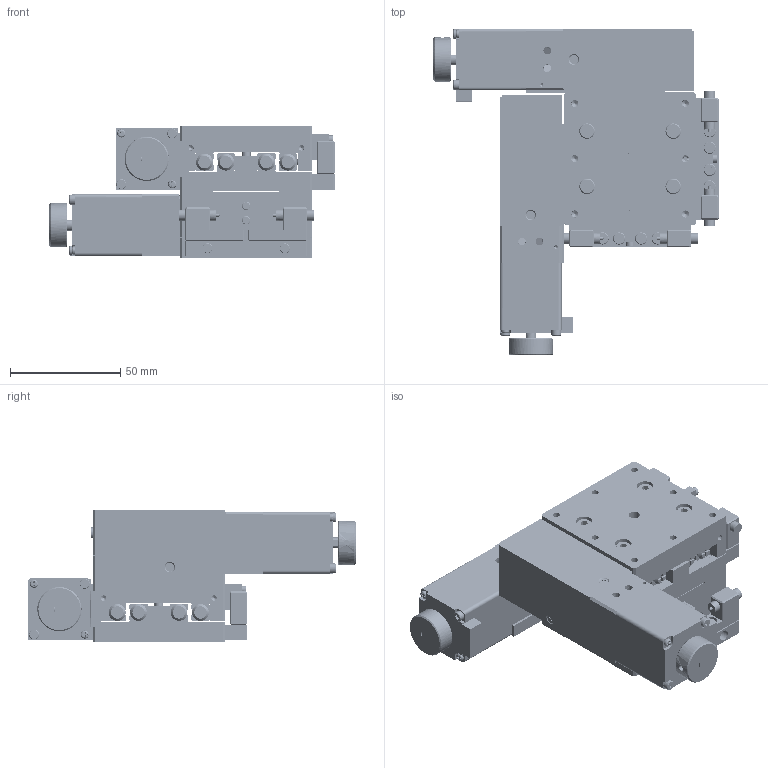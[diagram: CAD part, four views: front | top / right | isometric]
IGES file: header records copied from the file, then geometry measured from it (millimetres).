
Global section: file name: VTAMM60S-20XY_IGS; native system: Autodesk Inventor 2016; preprocessor: unknown; author: s.makino; date: 20170307.192907; units: millimetre
Bounding box: 129 x 148 x 60 mm (x, y, z)
Volume: 323138.6 mm3; surface area: 124276.3 mm2
Topology: 6 solids, 95 shells, 2712 faces, 6772 edges, 4547 vertices
Faces by surface type: bspline 2712
